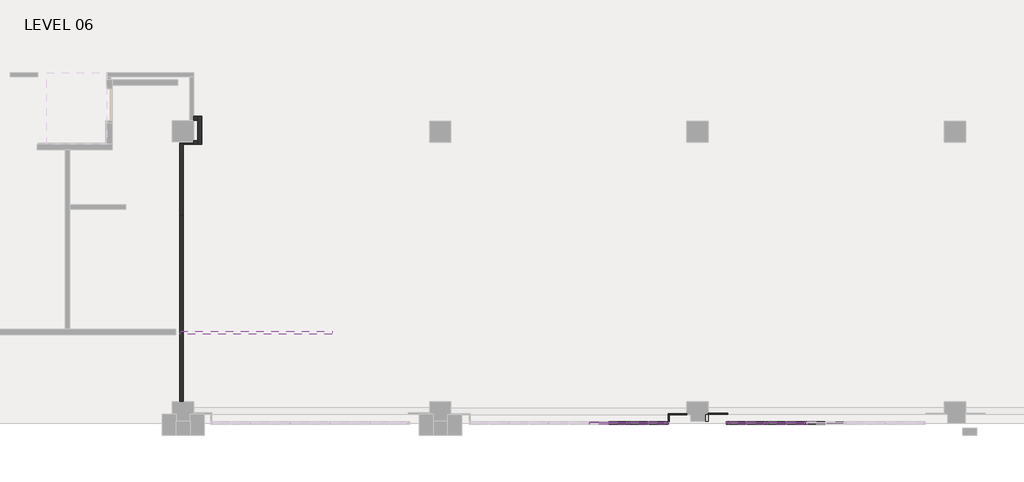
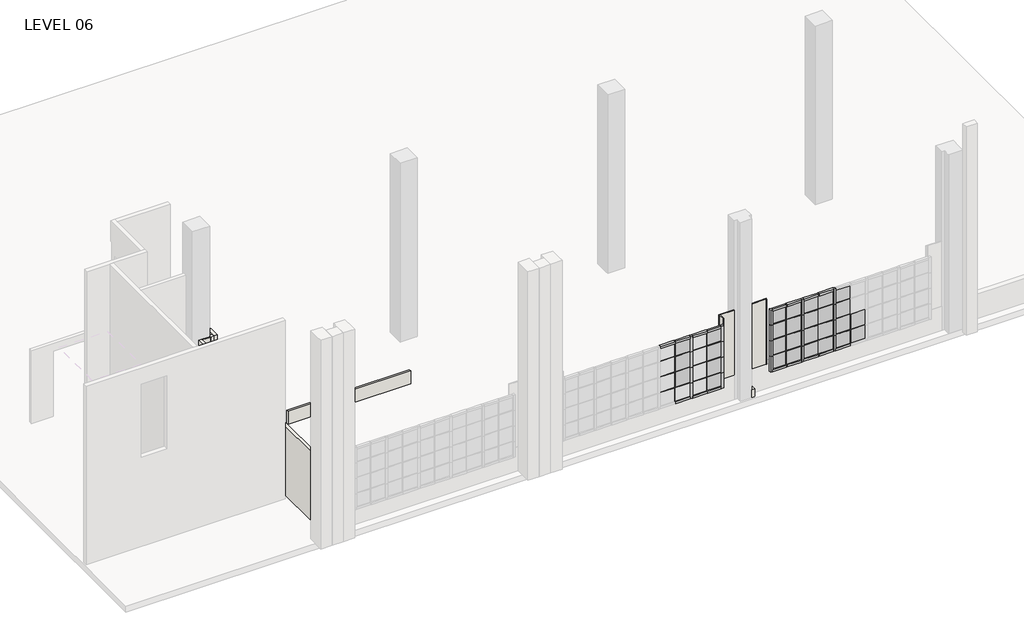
# One storey, part 5 of 16: 76 members, 29 plates, 12 walls.
"""IFC4 building model written with IfcOpenShell, lengths in millimetres."""

from ifc_helpers import new_model, si_unit, frame, origin, place, context, project, spatial, polyline, outline, extrude, faceted_brep, transform, mapped, element, save
from components import member_78bb2ef1, member_cb03ba1c, member_aa53491b, member_c1b5942e, member_9d26962d, member_378e0c06, member_17eb62f4, system_panel_glazed_79ade883, system_panel_glazed_12cc9f41, system_panel_glazed_730530c4, system_panel_glazed_b8d6571b

model = new_model("IFC4")

# Units and contexts
model_context = context("Model", 3, world=origin())
ifc_project = project(units=[si_unit("LENGTHUNIT", "METRE", prefix="MILLI")], contexts=[model_context])

# Site, building, storey
site = spatial("IfcSite", under=ifc_project)
building = spatial("IfcBuilding", under=site)
storey = spatial("IfcBuildingStorey", under=building, Name="LEVEL 06", Elevation=17449.8)

# Members
placement = place(None, origin())
member_shape = member_78bb2ef1(model_context)
element("IfcMember", 1, ObjectType="Rectangular Mullion : 1\" x 1\" - Butt Joint", at=placement, inside=storey, context=model_context, shape_type="MappedRepresentation", body=[
    mapped(member_shape, transform((-17963.4385758, -25119.8112062, 19989.8), x_axis=(1.0, 0.0, 0.0), y_axis=(0.0, -1.0, 0.0), z_axis=(0.0, 0.0, -1.0))),
])
element("IfcMember", 2, ObjectType="Rectangular Mullion : 1\" x 1\" - Butt Joint", at=placement, inside=storey, context=model_context, shape_type="MappedRepresentation", body=[
    mapped(member_shape, transform((-16825.5185758, -25119.8112062, 19989.8), x_axis=(1.0, 0.0, 0.0), y_axis=(0.0, -1.0, 0.0), z_axis=(0.0, 0.0, -1.0))),
])
element("IfcMember", 3, ObjectType="Rectangular Mullion : 1\" x 1\" - Butt Joint", at=placement, inside=storey, context=model_context, shape_type="MappedRepresentation", body=[
    mapped(member_shape, transform((-14017.8617677, -25119.8112062, 19989.8), x_axis=(1.0, 0.0, 0.0), y_axis=(0.0, -1.0, 0.0), z_axis=(0.0, 0.0, -1.0))),
])
element("IfcMember", 4, ObjectType="Rectangular Mullion : 1\" x 1\" - Butt Joint", at=placement, inside=storey, context=model_context, shape_type="MappedRepresentation", body=[
    mapped(member_shape, transform((-12879.9417677, -25119.8112062, 19989.8), x_axis=(1.0, 0.0, 0.0), y_axis=(0.0, -1.0, 0.0), z_axis=(0.0, 0.0, -1.0))),
])
member_2_shape = member_cb03ba1c(model_context)
element("IfcMember", 5, ObjectType="Rectangular Mullion : 1\" x 1\" - Butt Joint", at=placement, inside=storey, context=model_context, shape_type="MappedRepresentation", body=[
    mapped(member_2_shape, transform((-17432.5785758, -25119.8112062, 19989.8), x_axis=(0.0, 0.0, 1.0), y_axis=(0.0, -1.0, 0.0), z_axis=(1.0, 0.0, 0.0))),
])
element("IfcMember", 6, ObjectType="Rectangular Mullion : 1\" x 1\" - Butt Joint", at=placement, inside=storey, context=model_context, shape_type="MappedRepresentation", body=[
    mapped(member_2_shape, transform((-16838.2185758, -25119.8112062, 19989.8), x_axis=(0.0, 0.0, 1.0), y_axis=(0.0, -1.0, 0.0), z_axis=(1.0, 0.0, 0.0))),
])
element("IfcMember", 7, ObjectType="Rectangular Mullion : 1\" x 1\" - Butt Joint", at=placement, inside=storey, context=model_context, shape_type="MappedRepresentation", body=[
    mapped(member_2_shape, transform((-17976.1385758, -25119.8112062, 19989.8), x_axis=(0.0, 0.0, 1.0), y_axis=(0.0, -1.0, 0.0), z_axis=(1.0, 0.0, 0.0))),
])
element("IfcMember", 8, ObjectType="Rectangular Mullion : 1\" x 1\" - Butt Joint", at=placement, inside=storey, context=model_context, shape_type="MappedRepresentation", body=[
    mapped(member_2_shape, transform((-17432.5785758, -25119.8112062, 19405.6), x_axis=(0.0, 0.0, 1.0), y_axis=(0.0, -1.0, 0.0), z_axis=(1.0, 0.0, 0.0))),
])
element("IfcMember", 9, ObjectType="Rectangular Mullion : 1\" x 1\" - Butt Joint", at=placement, inside=storey, context=model_context, shape_type="MappedRepresentation", body=[
    mapped(member_2_shape, transform((-16838.2185758, -25119.8112062, 19405.6), x_axis=(0.0, 0.0, 1.0), y_axis=(0.0, -1.0, 0.0), z_axis=(1.0, 0.0, 0.0))),
])
element("IfcMember", 10, ObjectType="Rectangular Mullion : 1\" x 1\" - Butt Joint", at=placement, inside=storey, context=model_context, shape_type="MappedRepresentation", body=[
    mapped(member_2_shape, transform((-17976.1385758, -25119.8112062, 19405.6), x_axis=(0.0, 0.0, 1.0), y_axis=(0.0, -1.0, 0.0), z_axis=(1.0, 0.0, 0.0))),
])
element("IfcMember", 11, ObjectType="Rectangular Mullion : 1\" x 1\" - Butt Joint", at=placement, inside=storey, context=model_context, shape_type="MappedRepresentation", body=[
    mapped(member_2_shape, transform((-17432.5785758, -25119.8112062, 18821.4), x_axis=(0.0, 0.0, 1.0), y_axis=(0.0, -1.0, 0.0), z_axis=(1.0, 0.0, 0.0))),
])
element("IfcMember", 12, ObjectType="Rectangular Mullion : 1\" x 1\" - Butt Joint", at=placement, inside=storey, context=model_context, shape_type="MappedRepresentation", body=[
    mapped(member_2_shape, transform((-16838.2185758, -25119.8112062, 18821.4), x_axis=(0.0, 0.0, 1.0), y_axis=(0.0, -1.0, 0.0), z_axis=(1.0, 0.0, 0.0))),
])
element("IfcMember", 13, ObjectType="Rectangular Mullion : 1\" x 1\" - Butt Joint", at=placement, inside=storey, context=model_context, shape_type="MappedRepresentation", body=[
    mapped(member_2_shape, transform((-17976.1385758, -25119.8112062, 18821.4), x_axis=(0.0, 0.0, 1.0), y_axis=(0.0, -1.0, 0.0), z_axis=(1.0, 0.0, 0.0))),
])
element("IfcMember", 14, ObjectType="Rectangular Mullion : 1\" x 1\" - Butt Joint", at=placement, inside=storey, context=model_context, shape_type="MappedRepresentation", body=[
    mapped(member_2_shape, transform((-12349.0817677, -25119.8112062, 19989.8), x_axis=(0.0, 0.0, 1.0), y_axis=(0.0, -1.0, 0.0), z_axis=(1.0, 0.0, 0.0))),
])
element("IfcMember", 15, ObjectType="Rectangular Mullion : 1\" x 1\" - Butt Joint", at=placement, inside=storey, context=model_context, shape_type="MappedRepresentation", body=[
    mapped(member_2_shape, transform((-13487.0017677, -25119.8112062, 19989.8), x_axis=(0.0, 0.0, 1.0), y_axis=(0.0, -1.0, 0.0), z_axis=(1.0, 0.0, 0.0))),
])
element("IfcMember", 16, ObjectType="Rectangular Mullion : 1\" x 1\" - Butt Joint", at=placement, inside=storey, context=model_context, shape_type="MappedRepresentation", body=[
    mapped(member_2_shape, transform((-12892.6417677, -25119.8112062, 19989.8), x_axis=(0.0, 0.0, 1.0), y_axis=(0.0, -1.0, 0.0), z_axis=(1.0, 0.0, 0.0))),
])
element("IfcMember", 17, ObjectType="Rectangular Mullion : 1\" x 1\" - Butt Joint", at=placement, inside=storey, context=model_context, shape_type="MappedRepresentation", body=[
    mapped(member_2_shape, transform((-12349.0817677, -25119.8112062, 19405.6), x_axis=(0.0, 0.0, 1.0), y_axis=(0.0, -1.0, 0.0), z_axis=(1.0, 0.0, 0.0))),
])
element("IfcMember", 18, ObjectType="Rectangular Mullion : 1\" x 1\" - Butt Joint", at=placement, inside=storey, context=model_context, shape_type="MappedRepresentation", body=[
    mapped(member_2_shape, transform((-13487.0017677, -25119.8112062, 19405.6), x_axis=(0.0, 0.0, 1.0), y_axis=(0.0, -1.0, 0.0), z_axis=(1.0, 0.0, 0.0))),
])
element("IfcMember", 19, ObjectType="Rectangular Mullion : 1\" x 1\" - Butt Joint", at=placement, inside=storey, context=model_context, shape_type="MappedRepresentation", body=[
    mapped(member_2_shape, transform((-12892.6417677, -25119.8112062, 19405.6), x_axis=(0.0, 0.0, 1.0), y_axis=(0.0, -1.0, 0.0), z_axis=(1.0, 0.0, 0.0))),
])
element("IfcMember", 20, ObjectType="Rectangular Mullion : 1\" x 1\" - Butt Joint", at=placement, inside=storey, context=model_context, shape_type="MappedRepresentation", body=[
    mapped(member_2_shape, transform((-12349.0817677, -25119.8112062, 18821.4), x_axis=(0.0, 0.0, 1.0), y_axis=(0.0, -1.0, 0.0), z_axis=(1.0, 0.0, 0.0))),
])
element("IfcMember", 21, ObjectType="Rectangular Mullion : 1\" x 1\" - Butt Joint", at=placement, inside=storey, context=model_context, shape_type="MappedRepresentation", body=[
    mapped(member_2_shape, transform((-13487.0017677, -25119.8112062, 18821.4), x_axis=(0.0, 0.0, 1.0), y_axis=(0.0, -1.0, 0.0), z_axis=(1.0, 0.0, 0.0))),
])
element("IfcMember", 22, ObjectType="Rectangular Mullion : 1\" x 1\" - Butt Joint", at=placement, inside=storey, context=model_context, shape_type="MappedRepresentation", body=[
    mapped(member_2_shape, transform((-12892.6417677, -25119.8112062, 18821.4), x_axis=(0.0, 0.0, 1.0), y_axis=(0.0, -1.0, 0.0), z_axis=(1.0, 0.0, 0.0))),
])
member_3_shape = member_aa53491b(model_context)
element("IfcMember", 23, ObjectType="Rectangular Mullion : 1\" x 1\" - Butt Joint", at=placement, inside=storey, context=model_context, shape_type="MappedRepresentation", body=[
    mapped(member_3_shape, transform((-16332.7585758, -25119.8112062, 19989.8), x_axis=(0.0, 0.0, 1.0), y_axis=(0.0, -1.0, 0.0), z_axis=(1.0, 0.0, 0.0))),
])
element("IfcMember", 24, ObjectType="Rectangular Mullion : 1\" x 1\" - Butt Joint", at=placement, inside=storey, context=model_context, shape_type="MappedRepresentation", body=[
    mapped(member_3_shape, transform((-16332.7585758, -25119.8112062, 19405.6), x_axis=(0.0, 0.0, 1.0), y_axis=(0.0, -1.0, 0.0), z_axis=(1.0, 0.0, 0.0))),
])
element("IfcMember", 25, ObjectType="Rectangular Mullion : 1\" x 1\" - Butt Joint", at=placement, inside=storey, context=model_context, shape_type="MappedRepresentation", body=[
    mapped(member_3_shape, transform((-16332.7585758, -25119.8112062, 18821.4), x_axis=(0.0, 0.0, 1.0), y_axis=(0.0, -1.0, 0.0), z_axis=(1.0, 0.0, 0.0))),
])
element("IfcMember", 26, ObjectType="Rectangular Mullion : 1\" x 1\" - Butt Joint", at=placement, inside=storey, context=model_context, shape_type="MappedRepresentation", body=[
    mapped(member_3_shape, transform((-14030.5617677, -25119.8112062, 19989.8), x_axis=(0.0, 0.0, 1.0), y_axis=(0.0, -1.0, 0.0), z_axis=(1.0, 0.0, 0.0))),
])
element("IfcMember", 27, ObjectType="Rectangular Mullion : 1\" x 1\" - Butt Joint", at=placement, inside=storey, context=model_context, shape_type="MappedRepresentation", body=[
    mapped(member_3_shape, transform((-14030.5617677, -25119.8112062, 19405.6), x_axis=(0.0, 0.0, 1.0), y_axis=(0.0, -1.0, 0.0), z_axis=(1.0, 0.0, 0.0))),
])
element("IfcMember", 28, ObjectType="Rectangular Mullion : 1\" x 1\" - Butt Joint", at=placement, inside=storey, context=model_context, shape_type="MappedRepresentation", body=[
    mapped(member_3_shape, transform((-14030.5617677, -25119.8112062, 18821.4), x_axis=(0.0, 0.0, 1.0), y_axis=(0.0, -1.0, 0.0), z_axis=(1.0, 0.0, 0.0))),
])
element("IfcMember", 29, ObjectType="Rectangular Mullion : 1\" x 1\" - Butt Joint", at=placement, inside=storey, context=model_context, shape_type="MappedRepresentation", body=[
    mapped(member_shape, transform((-17963.4385758, -25119.8112062, 19405.6), x_axis=(1.0, 0.0, 0.0), y_axis=(0.0, -1.0, 0.0), z_axis=(0.0, 0.0, -1.0))),
])
element("IfcMember", 30, ObjectType="Rectangular Mullion : 1\" x 1\" - Butt Joint", at=placement, inside=storey, context=model_context, shape_type="MappedRepresentation", body=[
    mapped(member_shape, transform((-17963.4385758, -25119.8112062, 18821.4), x_axis=(1.0, 0.0, 0.0), y_axis=(0.0, -1.0, 0.0), z_axis=(0.0, 0.0, -1.0))),
])
element("IfcMember", 31, ObjectType="Rectangular Mullion : 1\" x 1\" - Butt Joint", at=placement, inside=storey, context=model_context, shape_type="MappedRepresentation", body=[
    mapped(member_shape, transform((-16825.5185758, -25119.8112062, 19405.6), x_axis=(1.0, 0.0, 0.0), y_axis=(0.0, -1.0, 0.0), z_axis=(0.0, 0.0, -1.0))),
])
element("IfcMember", 32, ObjectType="Rectangular Mullion : 1\" x 1\" - Butt Joint", at=placement, inside=storey, context=model_context, shape_type="MappedRepresentation", body=[
    mapped(member_shape, transform((-16825.5185758, -25119.8112062, 18821.4), x_axis=(1.0, 0.0, 0.0), y_axis=(0.0, -1.0, 0.0), z_axis=(0.0, 0.0, -1.0))),
])
element("IfcMember", 33, ObjectType="Rectangular Mullion : 1\" x 1\" - Butt Joint", at=placement, inside=storey, context=model_context, shape_type="MappedRepresentation", body=[
    mapped(member_shape, transform((-14017.8617677, -25119.8112062, 19405.6), x_axis=(1.0, 0.0, 0.0), y_axis=(0.0, -1.0, 0.0), z_axis=(0.0, 0.0, -1.0))),
])
element("IfcMember", 34, ObjectType="Rectangular Mullion : 1\" x 1\" - Butt Joint", at=placement, inside=storey, context=model_context, shape_type="MappedRepresentation", body=[
    mapped(member_shape, transform((-14017.8617677, -25119.8112062, 18821.4), x_axis=(1.0, 0.0, 0.0), y_axis=(0.0, -1.0, 0.0), z_axis=(0.0, 0.0, -1.0))),
])
element("IfcMember", 35, ObjectType="Rectangular Mullion : 1\" x 1\" - Butt Joint", at=placement, inside=storey, context=model_context, shape_type="MappedRepresentation", body=[
    mapped(member_shape, transform((-12879.9417677, -25119.8112062, 19405.6), x_axis=(1.0, 0.0, 0.0), y_axis=(0.0, -1.0, 0.0), z_axis=(0.0, 0.0, -1.0))),
])
element("IfcMember", 36, ObjectType="Rectangular Mullion : 1\" x 1\" - Butt Joint", at=placement, inside=storey, context=model_context, shape_type="MappedRepresentation", body=[
    mapped(member_shape, transform((-12879.9417677, -25119.8112062, 18821.4), x_axis=(1.0, 0.0, 0.0), y_axis=(0.0, -1.0, 0.0), z_axis=(0.0, 0.0, -1.0))),
])
element("IfcMember", 37, ObjectType="Rectangular Mullion : 1\" x 1\" - Butt Joint", at=placement, inside=storey, context=model_context, shape_type="MappedRepresentation", body=[
    mapped(member_shape, transform((-17963.4385758, -25119.8112062, 18237.2), x_axis=(1.0, 0.0, 0.0), y_axis=(0.0, -1.0, 0.0), z_axis=(0.0, 0.0, -1.0))),
])
element("IfcMember", 38, ObjectType="Rectangular Mullion : 1\" x 1\" - Butt Joint", at=placement, inside=storey, context=model_context, shape_type="MappedRepresentation", body=[
    mapped(member_shape, transform((-16825.5185758, -25119.8112062, 18237.2), x_axis=(1.0, 0.0, 0.0), y_axis=(0.0, -1.0, 0.0), z_axis=(0.0, 0.0, -1.0))),
])
element("IfcMember", 39, ObjectType="Rectangular Mullion : 1\" x 1\" - Butt Joint", at=placement, inside=storey, context=model_context, shape_type="MappedRepresentation", body=[
    mapped(member_shape, transform((-14017.8617677, -25119.8112062, 18237.2), x_axis=(1.0, 0.0, 0.0), y_axis=(0.0, -1.0, 0.0), z_axis=(0.0, 0.0, -1.0))),
])
element("IfcMember", 40, ObjectType="Rectangular Mullion : 1\" x 1\" - Butt Joint", at=placement, inside=storey, context=model_context, shape_type="MappedRepresentation", body=[
    mapped(member_shape, transform((-12879.9417677, -25119.8112062, 18237.2), x_axis=(1.0, 0.0, 0.0), y_axis=(0.0, -1.0, 0.0), z_axis=(0.0, 0.0, -1.0))),
])
member_4_shape = member_c1b5942e(model_context)
element("IfcMember", 41, ObjectType="Rectangular Mullion : 3\" x 3\" Window Jamb", at=placement, inside=storey, context=model_context, shape_type="MappedRepresentation", body=[
    mapped(member_4_shape, transform((-17950.7385758, -25119.8112062, 18237.2), x_axis=(0.0, 0.0, -1.0), y_axis=(0.0, -1.0, 0.0), z_axis=(-1.0, 0.0, 0.0))),
])
element("IfcMember", 42, ObjectType="Rectangular Mullion : 3\" x 3\" Window Jamb", at=placement, inside=storey, context=model_context, shape_type="MappedRepresentation", body=[
    mapped(member_4_shape, transform((-17356.3785758, -25119.8112062, 18237.2), x_axis=(0.0, 0.0, -1.0), y_axis=(0.0, -1.0, 0.0), z_axis=(-1.0, 0.0, 0.0))),
])
element("IfcMember", 43, ObjectType="Rectangular Mullion : 3\" x 3\" Window Jamb", at=placement, inside=storey, context=model_context, shape_type="MappedRepresentation", body=[
    mapped(member_4_shape, transform((-12867.2417677, -25119.8112062, 18237.2), x_axis=(0.0, 0.0, -1.0), y_axis=(0.0, -1.0, 0.0), z_axis=(-1.0, 0.0, 0.0))),
])
element("IfcMember", 44, ObjectType="Rectangular Mullion : 3\" x 3\" Window Jamb", at=placement, inside=storey, context=model_context, shape_type="MappedRepresentation", body=[
    mapped(member_4_shape, transform((-14005.1617677, -25119.8112062, 18237.2), x_axis=(0.0, 0.0, -1.0), y_axis=(0.0, -1.0, 0.0), z_axis=(-1.0, 0.0, 0.0))),
])
element("IfcMember", 45, ObjectType="Rectangular Mullion : 3\" x 3\" Window Jamb", at=placement, inside=storey, context=model_context, shape_type="MappedRepresentation", body=[
    mapped(member_4_shape, transform((-12272.8817677, -25119.8112062, 18237.2), x_axis=(0.0, 0.0, -1.0), y_axis=(0.0, -1.0, 0.0), z_axis=(-1.0, 0.0, 0.0))),
])
element("IfcMember", 46, ObjectType="Rectangular Mullion : 3\" x 3\" Window Jamb", at=placement, inside=storey, context=model_context, shape_type="MappedRepresentation", body=[
    mapped(member_4_shape, transform((-13410.8017677, -25119.8112062, 18237.2), x_axis=(0.0, 0.0, -1.0), y_axis=(0.0, -1.0, 0.0), z_axis=(-1.0, 0.0, 0.0))),
])
member_5_shape = member_9d26962d(model_context)
element("IfcMember", 47, ObjectType="Rectangular Mullion : 3\" x 3\" Window Jamb", at=placement, inside=storey, context=model_context, shape_type="MappedRepresentation", body=[
    mapped(member_5_shape, transform((-16812.8185758, -25119.8112062, 18237.2), x_axis=(0.0, 0.0, -1.0), y_axis=(0.0, -1.0, 0.0), z_axis=(-1.0, 0.0, 0.0))),
])
element("IfcMember", 48, ObjectType="Rectangular Mullion : 3\" x 3\" Window Jamb", at=placement, inside=storey, context=model_context, shape_type="MappedRepresentation", body=[
    mapped(member_5_shape, transform((-14510.6217677, -25119.8112062, 18237.2), x_axis=(0.0, 0.0, -1.0), y_axis=(0.0, -1.0, 0.0), z_axis=(-1.0, 0.0, 0.0))),
])
element("IfcMember", 49, ObjectType="Rectangular Mullion : 3\" x 3\" Window Jamb", at=placement, inside=storey, context=model_context, shape_type="MappedRepresentation", body=[
    mapped(member_5_shape, transform((-16332.7585758, -25119.8112062, 20574.0), x_axis=(0.0, 0.0, 1.0), y_axis=(0.0, -1.0, 0.0), z_axis=(1.0, 0.0, 0.0))),
])
element("IfcMember", 50, ObjectType="Rectangular Mullion : 3\" x 3\" Window Jamb", at=placement, inside=storey, context=model_context, shape_type="MappedRepresentation", body=[
    mapped(member_5_shape, transform((-14030.5617677, -25119.8112062, 20574.0), x_axis=(0.0, 0.0, 1.0), y_axis=(0.0, -1.0, 0.0), z_axis=(1.0, 0.0, 0.0))),
])
element("IfcMember", 51, ObjectType="Rectangular Mullion : 3\" x 3\" Window Jamb", at=placement, inside=storey, context=model_context, shape_type="MappedRepresentation", body=[
    mapped(member_4_shape, transform((-16838.2185758, -25119.8112062, 20574.0), x_axis=(0.0, 0.0, 1.0), y_axis=(0.0, -1.0, 0.0), z_axis=(1.0, 0.0, 0.0))),
])
element("IfcMember", 52, ObjectType="Rectangular Mullion : 3\" x 3\" Window Jamb", at=placement, inside=storey, context=model_context, shape_type="MappedRepresentation", body=[
    mapped(member_4_shape, transform((-17976.1385758, -25119.8112062, 20574.0), x_axis=(0.0, 0.0, 1.0), y_axis=(0.0, -1.0, 0.0), z_axis=(1.0, 0.0, 0.0))),
])
element("IfcMember", 53, ObjectType="Rectangular Mullion : 3\" x 3\" Window Jamb", at=placement, inside=storey, context=model_context, shape_type="MappedRepresentation", body=[
    mapped(member_4_shape, transform((-17432.5785758, -25119.8112062, 20574.0), x_axis=(0.0, 0.0, 1.0), y_axis=(0.0, -1.0, 0.0), z_axis=(1.0, 0.0, 0.0))),
])
element("IfcMember", 54, ObjectType="Rectangular Mullion : 3\" x 3\" Window Jamb", at=placement, inside=storey, context=model_context, shape_type="MappedRepresentation", body=[
    mapped(member_4_shape, transform((-12892.6417677, -25119.8112062, 20574.0), x_axis=(0.0, 0.0, 1.0), y_axis=(0.0, -1.0, 0.0), z_axis=(1.0, 0.0, 0.0))),
])
element("IfcMember", 55, ObjectType="Rectangular Mullion : 3\" x 3\" Window Jamb", at=placement, inside=storey, context=model_context, shape_type="MappedRepresentation", body=[
    mapped(member_4_shape, transform((-12349.0817677, -25119.8112062, 20574.0), x_axis=(0.0, 0.0, 1.0), y_axis=(0.0, -1.0, 0.0), z_axis=(1.0, 0.0, 0.0))),
])
element("IfcMember", 56, ObjectType="Rectangular Mullion : 3\" x 3\" Window Jamb", at=placement, inside=storey, context=model_context, shape_type="MappedRepresentation", body=[
    mapped(member_4_shape, transform((-13487.0017677, -25119.8112062, 20574.0), x_axis=(0.0, 0.0, 1.0), y_axis=(0.0, -1.0, 0.0), z_axis=(1.0, 0.0, 0.0))),
])
member_6_shape = member_378e0c06(model_context)
element("IfcMember", 57, ObjectType="Rectangular Mullion : 3\" x 3\" Window Jamb", at=placement, inside=storey, context=model_context, shape_type="MappedRepresentation", body=[
    mapped(member_6_shape, transform((-17394.4785758, -25119.8112062, 19989.8), x_axis=(1.0, 0.0, 0.0), y_axis=(0.0, -1.0, 0.0), z_axis=(0.0, 0.0, -1.0))),
])
element("IfcMember", 58, ObjectType="Rectangular Mullion : 3\" x 3\" Window Jamb", at=placement, inside=storey, context=model_context, shape_type="MappedRepresentation", body=[
    mapped(member_6_shape, transform((-13448.9017677, -25119.8112062, 19989.8), x_axis=(1.0, 0.0, 0.0), y_axis=(0.0, -1.0, 0.0), z_axis=(0.0, 0.0, -1.0))),
])
element("IfcMember", 59, ObjectType="Rectangular Mullion : 3\" x 3\" Window Jamb", at=placement, inside=storey, context=model_context, shape_type="MappedRepresentation", body=[
    mapped(member_6_shape, transform((-12310.9817677, -25119.8112062, 19989.8), x_axis=(1.0, 0.0, 0.0), y_axis=(0.0, -1.0, 0.0), z_axis=(0.0, 0.0, -1.0))),
])
member_7_shape = member_17eb62f4(model_context)
element("IfcMember", 60, ObjectType="Rectangular Mullion : 3\" x 3\" Window Jamb", at=placement, inside=storey, context=model_context, shape_type="MappedRepresentation", body=[
    mapped(member_7_shape, transform((-16256.5585758, -25119.8112062, 19989.8), x_axis=(1.0, 0.0, 0.0), y_axis=(0.0, -1.0, 0.0), z_axis=(0.0, 0.0, -1.0))),
])
element("IfcMember", 61, ObjectType="Rectangular Mullion : 3\" x 3\" Window Jamb", at=placement, inside=storey, context=model_context, shape_type="MappedRepresentation", body=[
    mapped(member_7_shape, transform((-14586.8217677, -25119.8112062, 20574.0), x_axis=(-1.0, 0.0, 0.0), y_axis=(0.0, -1.0, 0.0), z_axis=(0.0, 0.0, 1.0))),
])
element("IfcMember", 62, ObjectType="Rectangular Mullion : 3\" x 3\" Window Jamb", at=placement, inside=storey, context=model_context, shape_type="MappedRepresentation", body=[
    mapped(member_6_shape, transform((-17394.4785758, -25119.8112062, 19405.6), x_axis=(1.0, 0.0, 0.0), y_axis=(0.0, -1.0, 0.0), z_axis=(0.0, 0.0, -1.0))),
])
element("IfcMember", 63, ObjectType="Rectangular Mullion : 3\" x 3\" Window Jamb", at=placement, inside=storey, context=model_context, shape_type="MappedRepresentation", body=[
    mapped(member_6_shape, transform((-17394.4785758, -25119.8112062, 18821.4), x_axis=(1.0, 0.0, 0.0), y_axis=(0.0, -1.0, 0.0), z_axis=(0.0, 0.0, -1.0))),
])
element("IfcMember", 64, ObjectType="Rectangular Mullion : 3\" x 3\" Window Jamb", at=placement, inside=storey, context=model_context, shape_type="MappedRepresentation", body=[
    mapped(member_6_shape, transform((-13448.9017677, -25119.8112062, 19405.6), x_axis=(1.0, 0.0, 0.0), y_axis=(0.0, -1.0, 0.0), z_axis=(0.0, 0.0, -1.0))),
])
element("IfcMember", 65, ObjectType="Rectangular Mullion : 3\" x 3\" Window Jamb", at=placement, inside=storey, context=model_context, shape_type="MappedRepresentation", body=[
    mapped(member_6_shape, transform((-13448.9017677, -25119.8112062, 18821.4), x_axis=(1.0, 0.0, 0.0), y_axis=(0.0, -1.0, 0.0), z_axis=(0.0, 0.0, -1.0))),
])
element("IfcMember", 66, ObjectType="Rectangular Mullion : 3\" x 3\" Window Jamb", at=placement, inside=storey, context=model_context, shape_type="MappedRepresentation", body=[
    mapped(member_6_shape, transform((-12310.9817677, -25119.8112062, 19405.6), x_axis=(1.0, 0.0, 0.0), y_axis=(0.0, -1.0, 0.0), z_axis=(0.0, 0.0, -1.0))),
])
element("IfcMember", 67, ObjectType="Rectangular Mullion : 3\" x 3\" Window Jamb", at=placement, inside=storey, context=model_context, shape_type="MappedRepresentation", body=[
    mapped(member_6_shape, transform((-12310.9817677, -25119.8112062, 18821.4), x_axis=(1.0, 0.0, 0.0), y_axis=(0.0, -1.0, 0.0), z_axis=(0.0, 0.0, -1.0))),
])
element("IfcMember", 68, ObjectType="Rectangular Mullion : 3\" x 3\" Window Jamb", at=placement, inside=storey, context=model_context, shape_type="MappedRepresentation", body=[
    mapped(member_7_shape, transform((-16256.5585758, -25119.8112062, 19405.6), x_axis=(1.0, 0.0, 0.0), y_axis=(0.0, -1.0, 0.0), z_axis=(0.0, 0.0, -1.0))),
])
element("IfcMember", 69, ObjectType="Rectangular Mullion : 3\" x 3\" Window Jamb", at=placement, inside=storey, context=model_context, shape_type="MappedRepresentation", body=[
    mapped(member_7_shape, transform((-16256.5585758, -25119.8112062, 18821.4), x_axis=(1.0, 0.0, 0.0), y_axis=(0.0, -1.0, 0.0), z_axis=(0.0, 0.0, -1.0))),
])
element("IfcMember", 70, ObjectType="Rectangular Mullion : 3\" x 3\" Window Jamb", at=placement, inside=storey, context=model_context, shape_type="MappedRepresentation", body=[
    mapped(member_7_shape, transform((-14586.8217677, -25119.8112062, 19989.8), x_axis=(-1.0, 0.0, 0.0), y_axis=(0.0, -1.0, 0.0), z_axis=(0.0, 0.0, 1.0))),
])
element("IfcMember", 71, ObjectType="Rectangular Mullion : 3\" x 3\" Window Jamb", at=placement, inside=storey, context=model_context, shape_type="MappedRepresentation", body=[
    mapped(member_7_shape, transform((-14586.8217677, -25119.8112062, 19405.6), x_axis=(-1.0, 0.0, 0.0), y_axis=(0.0, -1.0, 0.0), z_axis=(0.0, 0.0, 1.0))),
])
element("IfcMember", 72, ObjectType="Rectangular Mullion : 3\" x 3\" Window Jamb", at=placement, inside=storey, context=model_context, shape_type="MappedRepresentation", body=[
    mapped(member_6_shape, transform((-17394.4785758, -25119.8112062, 18237.2), x_axis=(1.0, 0.0, 0.0), y_axis=(0.0, -1.0, 0.0), z_axis=(0.0, 0.0, -1.0))),
])
element("IfcMember", 73, ObjectType="Rectangular Mullion : 3\" x 3\" Window Jamb", at=placement, inside=storey, context=model_context, shape_type="MappedRepresentation", body=[
    mapped(member_6_shape, transform((-13448.9017677, -25119.8112062, 18237.2), x_axis=(1.0, 0.0, 0.0), y_axis=(0.0, -1.0, 0.0), z_axis=(0.0, 0.0, -1.0))),
])
element("IfcMember", 74, ObjectType="Rectangular Mullion : 3\" x 3\" Window Jamb", at=placement, inside=storey, context=model_context, shape_type="MappedRepresentation", body=[
    mapped(member_6_shape, transform((-12310.9817677, -25119.8112062, 18237.2), x_axis=(1.0, 0.0, 0.0), y_axis=(0.0, -1.0, 0.0), z_axis=(0.0, 0.0, -1.0))),
])
element("IfcMember", 75, ObjectType="Rectangular Mullion : 3\" x 3\" Window Jamb", at=placement, inside=storey, context=model_context, shape_type="MappedRepresentation", body=[
    mapped(member_7_shape, transform((-16256.5585758, -25119.8112062, 18237.2), x_axis=(1.0, 0.0, 0.0), y_axis=(0.0, -1.0, 0.0), z_axis=(0.0, 0.0, -1.0))),
])
element("IfcMember", 76, ObjectType="Rectangular Mullion : 3\" x 3\" Window Jamb", at=placement, inside=storey, context=model_context, shape_type="MappedRepresentation", body=[
    mapped(member_7_shape, transform((-14586.8217677, -25119.8112062, 18821.4), x_axis=(-1.0, 0.0, 0.0), y_axis=(0.0, -1.0, 0.0), z_axis=(0.0, 0.0, 1.0))),
])

# Plates
system_panel_glazed_shape = system_panel_glazed_79ade883(model_context)
element("IfcPlate", 77, ObjectType="System Panel : Glazed", at=placement, inside=storey, context=model_context, shape_type="MappedRepresentation", body=[
    mapped(system_panel_glazed_shape, transform((-16572.7885758, -25119.8112062, 18313.4), x_axis=(1.0, 0.0, 0.0), y_axis=(0.0, 1.0, 0.0), z_axis=(0.0, 0.0, 1.0))),
])
element("IfcPlate", 78, ObjectType="System Panel : Glazed", at=placement, inside=storey, context=model_context, shape_type="MappedRepresentation", body=[
    mapped(system_panel_glazed_shape, transform((-16572.7885758, -25119.8112062, 20002.5), x_axis=(1.0, 0.0, 0.0), y_axis=(0.0, 1.0, 0.0), z_axis=(0.0, 0.0, 1.0))),
])
element("IfcPlate", 79, ObjectType="System Panel : Glazed", at=placement, inside=storey, context=model_context, shape_type="MappedRepresentation", body=[
    mapped(system_panel_glazed_shape, transform((-14270.5917677, -25119.8112062, 18313.4), x_axis=(1.0, 0.0, 0.0), y_axis=(0.0, 1.0, 0.0), z_axis=(0.0, 0.0, 1.0))),
])
element("IfcPlate", 80, ObjectType="System Panel : Glazed", at=placement, inside=storey, context=model_context, shape_type="MappedRepresentation", body=[
    mapped(system_panel_glazed_shape, transform((-14270.5917677, -25119.8112062, 20002.5), x_axis=(1.0, 0.0, 0.0), y_axis=(0.0, 1.0, 0.0), z_axis=(0.0, 0.0, 1.0))),
])
system_panel_glazed_2_shape = system_panel_glazed_12cc9f41(model_context)
element("IfcPlate", 81, ObjectType="System Panel : Glazed", at=placement, inside=storey, context=model_context, shape_type="MappedRepresentation", body=[
    mapped(system_panel_glazed_2_shape, transform((-17691.6585758, -25119.8112062, 20002.5), x_axis=(1.0, 0.0, 0.0), y_axis=(0.0, 1.0, 0.0), z_axis=(0.0, 0.0, 1.0))),
])
element("IfcPlate", 82, ObjectType="System Panel : Glazed", at=placement, inside=storey, context=model_context, shape_type="MappedRepresentation", body=[
    mapped(system_panel_glazed_2_shape, transform((-13151.7217677, -25119.8112062, 18313.4), x_axis=(1.0, 0.0, 0.0), y_axis=(0.0, 1.0, 0.0), z_axis=(0.0, 0.0, 1.0))),
])
element("IfcPlate", 83, ObjectType="System Panel : Glazed", at=placement, inside=storey, context=model_context, shape_type="MappedRepresentation", body=[
    mapped(system_panel_glazed_2_shape, transform((-12013.8017677, -25119.8112062, 18313.4), x_axis=(1.0, 0.0, 0.0), y_axis=(0.0, 1.0, 0.0), z_axis=(0.0, 0.0, 1.0))),
])
element("IfcPlate", 84, ObjectType="System Panel : Glazed", at=placement, inside=storey, context=model_context, shape_type="MappedRepresentation", body=[
    mapped(system_panel_glazed_2_shape, transform((-13151.7217677, -25119.8112062, 20002.5), x_axis=(1.0, 0.0, 0.0), y_axis=(0.0, 1.0, 0.0), z_axis=(0.0, 0.0, 1.0))),
])
element("IfcPlate", 85, ObjectType="System Panel : Glazed", at=placement, inside=storey, context=model_context, shape_type="MappedRepresentation", body=[
    mapped(system_panel_glazed_2_shape, transform((-12013.8017677, -25119.8112062, 20002.5), x_axis=(1.0, 0.0, 0.0), y_axis=(0.0, 1.0, 0.0), z_axis=(0.0, 0.0, 1.0))),
])
element("IfcPlate", 86, ObjectType="System Panel : Glazed", at=placement, inside=storey, context=model_context, shape_type="MappedRepresentation", body=[
    mapped(system_panel_glazed_2_shape, transform((-13746.0817677, -25119.8112062, 18313.4), x_axis=(1.0, 0.0, 0.0), y_axis=(0.0, 1.0, 0.0), z_axis=(0.0, 0.0, 1.0))),
])
element("IfcPlate", 87, ObjectType="System Panel : Glazed", at=placement, inside=storey, context=model_context, shape_type="MappedRepresentation", body=[
    mapped(system_panel_glazed_2_shape, transform((-13746.0817677, -25119.8112062, 20002.5), x_axis=(1.0, 0.0, 0.0), y_axis=(0.0, 1.0, 0.0), z_axis=(0.0, 0.0, 1.0))),
])
element("IfcPlate", 88, ObjectType="System Panel : Glazed", at=placement, inside=storey, context=model_context, shape_type="MappedRepresentation", body=[
    mapped(system_panel_glazed_2_shape, transform((-12608.1617677, -25119.8112062, 18313.4), x_axis=(1.0, 0.0, 0.0), y_axis=(0.0, 1.0, 0.0), z_axis=(0.0, 0.0, 1.0))),
])
element("IfcPlate", 89, ObjectType="System Panel : Glazed", at=placement, inside=storey, context=model_context, shape_type="MappedRepresentation", body=[
    mapped(system_panel_glazed_2_shape, transform((-12608.1617677, -25119.8112062, 20002.5), x_axis=(1.0, 0.0, 0.0), y_axis=(0.0, 1.0, 0.0), z_axis=(0.0, 0.0, 1.0))),
])
element("IfcPlate", 90, ObjectType="System Panel : Glazed", at=placement, inside=storey, context=model_context, shape_type="MappedRepresentation", body=[
    mapped(system_panel_glazed_2_shape, transform((-11470.2417677, -25119.8112062, 18313.4), x_axis=(1.0, 0.0, 0.0), y_axis=(0.0, 1.0, 0.0), z_axis=(0.0, 0.0, 1.0))),
])
system_panel_glazed_3_shape = system_panel_glazed_730530c4(model_context)
element("IfcPlate", 91, ObjectType="System Panel : Glazed", at=placement, inside=storey, context=model_context, shape_type="MappedRepresentation", body=[
    mapped(system_panel_glazed_3_shape, transform((-16572.7885758, -25119.8112062, 18834.1), x_axis=(1.0, 0.0, 0.0), y_axis=(0.0, 1.0, 0.0), z_axis=(0.0, 0.0, 1.0))),
])
element("IfcPlate", 92, ObjectType="System Panel : Glazed", at=placement, inside=storey, context=model_context, shape_type="MappedRepresentation", body=[
    mapped(system_panel_glazed_3_shape, transform((-16572.7885758, -25119.8112062, 19418.3), x_axis=(1.0, 0.0, 0.0), y_axis=(0.0, 1.0, 0.0), z_axis=(0.0, 0.0, 1.0))),
])
element("IfcPlate", 93, ObjectType="System Panel : Glazed", at=placement, inside=storey, context=model_context, shape_type="MappedRepresentation", body=[
    mapped(system_panel_glazed_3_shape, transform((-14270.5917677, -25119.8112062, 18834.1), x_axis=(1.0, 0.0, 0.0), y_axis=(0.0, 1.0, 0.0), z_axis=(0.0, 0.0, 1.0))),
])
element("IfcPlate", 94, ObjectType="System Panel : Glazed", at=placement, inside=storey, context=model_context, shape_type="MappedRepresentation", body=[
    mapped(system_panel_glazed_3_shape, transform((-14270.5917677, -25119.8112062, 19418.3), x_axis=(1.0, 0.0, 0.0), y_axis=(0.0, 1.0, 0.0), z_axis=(0.0, 0.0, 1.0))),
])
system_panel_glazed_4_shape = system_panel_glazed_b8d6571b(model_context)
element("IfcPlate", 95, ObjectType="System Panel : Glazed", at=placement, inside=storey, context=model_context, shape_type="MappedRepresentation", body=[
    mapped(system_panel_glazed_4_shape, transform((-17691.6585758, -25119.8112062, 18834.1), x_axis=(1.0, 0.0, 0.0), y_axis=(0.0, 1.0, 0.0), z_axis=(0.0, 0.0, 1.0))),
])
element("IfcPlate", 96, ObjectType="System Panel : Glazed", at=placement, inside=storey, context=model_context, shape_type="MappedRepresentation", body=[
    mapped(system_panel_glazed_4_shape, transform((-17691.6585758, -25119.8112062, 19418.3), x_axis=(1.0, 0.0, 0.0), y_axis=(0.0, 1.0, 0.0), z_axis=(0.0, 0.0, 1.0))),
])
element("IfcPlate", 97, ObjectType="System Panel : Glazed", at=placement, inside=storey, context=model_context, shape_type="MappedRepresentation", body=[
    mapped(system_panel_glazed_4_shape, transform((-13151.7217677, -25119.8112062, 18834.1), x_axis=(1.0, 0.0, 0.0), y_axis=(0.0, 1.0, 0.0), z_axis=(0.0, 0.0, 1.0))),
])
element("IfcPlate", 98, ObjectType="System Panel : Glazed", at=placement, inside=storey, context=model_context, shape_type="MappedRepresentation", body=[
    mapped(system_panel_glazed_4_shape, transform((-12013.8017677, -25119.8112062, 18834.1), x_axis=(1.0, 0.0, 0.0), y_axis=(0.0, 1.0, 0.0), z_axis=(0.0, 0.0, 1.0))),
])
element("IfcPlate", 99, ObjectType="System Panel : Glazed", at=placement, inside=storey, context=model_context, shape_type="MappedRepresentation", body=[
    mapped(system_panel_glazed_4_shape, transform((-13151.7217677, -25119.8112062, 19418.3), x_axis=(1.0, 0.0, 0.0), y_axis=(0.0, 1.0, 0.0), z_axis=(0.0, 0.0, 1.0))),
])
element("IfcPlate", 100, ObjectType="System Panel : Glazed", at=placement, inside=storey, context=model_context, shape_type="MappedRepresentation", body=[
    mapped(system_panel_glazed_4_shape, transform((-12013.8017677, -25119.8112062, 19418.3), x_axis=(1.0, 0.0, 0.0), y_axis=(0.0, 1.0, 0.0), z_axis=(0.0, 0.0, 1.0))),
])
element("IfcPlate", 101, ObjectType="System Panel : Glazed", at=placement, inside=storey, context=model_context, shape_type="MappedRepresentation", body=[
    mapped(system_panel_glazed_4_shape, transform((-13746.0817677, -25119.8112062, 18834.1), x_axis=(1.0, 0.0, 0.0), y_axis=(0.0, 1.0, 0.0), z_axis=(0.0, 0.0, 1.0))),
])
element("IfcPlate", 102, ObjectType="System Panel : Glazed", at=placement, inside=storey, context=model_context, shape_type="MappedRepresentation", body=[
    mapped(system_panel_glazed_4_shape, transform((-13746.0817677, -25119.8112062, 19418.3), x_axis=(1.0, 0.0, 0.0), y_axis=(0.0, 1.0, 0.0), z_axis=(0.0, 0.0, 1.0))),
])
element("IfcPlate", 103, ObjectType="System Panel : Glazed", at=placement, inside=storey, context=model_context, shape_type="MappedRepresentation", body=[
    mapped(system_panel_glazed_4_shape, transform((-12608.1617677, -25119.8112062, 18834.1), x_axis=(1.0, 0.0, 0.0), y_axis=(0.0, 1.0, 0.0), z_axis=(0.0, 0.0, 1.0))),
])
element("IfcPlate", 104, ObjectType="System Panel : Glazed", at=placement, inside=storey, context=model_context, shape_type="MappedRepresentation", body=[
    mapped(system_panel_glazed_4_shape, transform((-12608.1617677, -25119.8112062, 19418.3), x_axis=(1.0, 0.0, 0.0), y_axis=(0.0, 1.0, 0.0), z_axis=(0.0, 0.0, 1.0))),
])
element("IfcPlate", 105, ObjectType="System Panel : Glazed", at=placement, inside=storey, context=model_context, shape_type="MappedRepresentation", body=[
    mapped(system_panel_glazed_4_shape, transform((-11470.2417677, -25119.8112062, 18834.1), x_axis=(1.0, 0.0, 0.0), y_axis=(0.0, 1.0, 0.0), z_axis=(0.0, 0.0, 1.0))),
])

# Walls
element("IfcWall", 106, ObjectType="Partition A2_", at=placement, inside=storey, context=model_context, shape_type="Brep", body=[
    faceted_brep([(-15203.0849596, -24525.0483115, 17449.8), (-15203.0849596, -25084.033955, 17449.8), (-15203.0849596, -25084.033955, 17754.6), (-15203.0849596, -24525.0483115, 17754.6), (-15107.8349596, -24525.0483115, 17449.8), (-15107.8349596, -24525.0483115, 17754.6), (-15107.8349596, -25084.033955, 17754.6), (-15107.8349596, -25084.033955, 17449.8), (-15107.8349596, -24886.7398215, 17449.8), (-15107.8349596, -24702.5898215, 17449.8)], [[[0, 1, 2, 3]], [[4, 5, 6, 7, 8, 9]], [[1, 0, 4, 9, 8, 7]], [[3, 2, 6, 5]], [[0, 3, 5, 4]], [[2, 1, 7, 6]]]),
])
element("IfcWall", 107, ObjectType="Partition D2_", at=placement, inside=storey, context=model_context, shape_type="SweptSolid", body=[
    extrude(outline(polyline([(-25869.0721217, -22590.8917517), (-30212.9097362, -22590.8917517), (-30212.9097362, -22511.5167517), (-25869.0721217, -22511.5167517), (-25869.0721217, -22590.8917517)])), frame((0.0, 0.0, 20193.0), z_axis=(0.0, 0.0, 1.0), x_axis=(1.0, 0.0, 0.0)), (0.0, 0.0, 1.0), 482.6),
])
element("IfcWall", 108, ObjectType="Partition D3A", at=placement, inside=storey, context=model_context, shape_type="Brep", body=[
    faceted_brep([(-30124.0082282, -19185.7042517, 17449.8), (-30124.0082282, -17163.2292517, 17449.8), (-30124.0082282, -17128.3042517, 17449.8), (-30124.0082282, -17128.3042517, 20040.6), (-30124.0082282, -17163.2292517, 20040.6), (-30124.0082282, -19185.7042517, 20040.6), (-30231.9582282, -19185.7042517, 17449.8), (-30231.9582282, -19185.7042517, 20040.6), (-30231.9582282, -17128.3042517, 20040.6), (-30231.9582282, -17128.3042517, 17449.8)], [[[0, 1, 2, 3, 4, 5]], [[6, 7, 8, 9]], [[2, 1, 0, 6, 9]], [[5, 4, 3, 8, 7]], [[0, 5, 7, 6]], [[3, 2, 9, 8]]]),
])
element("IfcWall", 109, ObjectType="Partition D3A", at=placement, inside=storey, context=model_context, shape_type="Brep", body=[
    faceted_brep([(-29710.8221217, -16366.5601345, 17449.8), (-29710.8221217, -16474.5101345, 17449.8), (-29710.8221217, -17055.2792517, 17449.8), (-29710.8221217, -17163.2292517, 17449.8), (-29710.8221217, -17163.2292517, 20040.6), (-29710.8221217, -17055.2792517, 20040.6), (-29710.8221217, -16474.5101345, 20040.6), (-29710.8221217, -16366.5601345, 20040.6), (-29602.8721217, -16366.5601345, 17449.8), (-29602.8721217, -16366.5601345, 20040.6), (-29602.8721217, -17163.2292517, 20040.6), (-29602.8721217, -17163.2292517, 17449.8)], [[[0, 1, 2, 3, 4, 5, 6, 7]], [[8, 9, 10, 11]], [[3, 2, 1, 0, 8, 11]], [[7, 6, 5, 4, 10, 9]], [[0, 7, 9, 8]], [[4, 3, 11, 10]]]),
])
element("IfcWall", 110, ObjectType="Partition D3A", at=placement, inside=storey, context=model_context, shape_type="SweptSolid", body=[
    extrude(outline(polyline([(-30124.0082282, -19185.7042517), (-30124.0082282, -24519.7042517), (-30231.9582282, -24519.7042517), (-30231.9582282, -19185.7042517), (-30124.0082282, -19185.7042517)])), frame((0.0, 0.0, 17449.8), z_axis=(0.0, 0.0, 1.0), x_axis=(1.0, 0.0, 0.0)), (0.0, 0.0, 1.0), 2590.8),
])
element("IfcWall", 111, ObjectType="Partition D3A", at=placement, inside=storey, context=model_context, shape_type="SweptSolid", body=[
    extrude(outline(polyline([(-29710.8221217, -16474.5101345), (-29827.1349596, -16474.5101345), (-29827.1349596, -16366.5601345), (-29710.8221217, -16366.5601345), (-29710.8221217, -16474.5101345)])), frame((0.0, 0.0, 17449.8), z_axis=(0.0, 0.0, 1.0), x_axis=(1.0, 0.0, 0.0)), (0.0, 0.0, 1.0), 2590.8),
])
element("IfcWall", 112, ObjectType="Partition D3A", at=placement, inside=storey, context=model_context, shape_type="Brep", body=[
    faceted_brep([(-29710.8221217, -17055.2792517, 17449.8), (-29827.1349596, -17055.2792517, 17449.8), (-29827.1349596, -17055.2792517, 20040.6), (-29710.8221217, -17055.2792517, 20040.6), (-29710.8221217, -17163.2292517, 17449.8), (-29710.8221217, -17163.2292517, 20040.6), (-29827.1349596, -17163.2292517, 20040.6), (-29827.1349596, -17163.2292517, 17449.8), (-29827.1349596, -17128.3042517, 17449.8), (-29827.1349596, -17128.3042517, 20040.6)], [[[0, 1, 2, 3]], [[4, 5, 6, 7]], [[1, 0, 4, 7, 8]], [[2, 1, 8, 7, 6, 9]], [[3, 2, 9, 6, 5]], [[0, 3, 5, 4]]]),
])
element("IfcWall", 113, ObjectType="Partition F0_", at=placement, inside=storey, context=model_context, shape_type="SweptSolid", body=[
    extrude(outline(polyline([(-29827.1349596, -17163.2292517), (-30124.0082282, -17163.2292517), (-30124.0082282, -17128.3042517), (-29827.1349596, -17128.3042517), (-29827.1349596, -17163.2292517)])), frame((0.0, 0.0, 17449.8), z_axis=(0.0, 0.0, 1.0), x_axis=(1.0, 0.0, 0.0)), (0.0, 0.0, 1.0), 2590.8),
])
element("IfcWall", 114, ObjectType="Partition F0_", at=placement, inside=storey, context=model_context, shape_type="Brep", body=[
    faceted_brep([(-16252.3238573, -24903.058955, 18364.2), (-16217.3988573, -24903.058955, 18364.2), (-15717.4349596, -24903.058955, 18364.2), (-15717.4349596, -24903.058955, 20802.6), (-16217.3988573, -24903.058955, 20802.6), (-16252.3238573, -24903.058955, 20802.6), (-16252.3238573, -24868.133955, 18364.2), (-16252.3238573, -24868.133955, 20802.6), (-15717.4349596, -24868.133955, 20802.6), (-15717.4349596, -24868.133955, 18364.2)], [[[0, 1, 2, 3, 4, 5]], [[6, 7, 8, 9]], [[2, 1, 0, 6, 9]], [[3, 2, 9, 8]], [[5, 4, 3, 8, 7]], [[0, 5, 7, 6]]]),
])
element("IfcWall", 115, ObjectType="Partition F0_", at=placement, inside=storey, context=model_context, shape_type="Brep", body=[
    faceted_brep([(-15107.8349596, -24885.596455, 18364.2), (-14586.8217677, -24885.596455, 18364.2), (-14551.8967677, -24885.596455, 18364.2), (-14551.8967677, -24885.596455, 20802.6), (-14586.8217677, -24885.596455, 20802.6), (-15107.8349596, -24885.596455, 20802.6), (-15107.8349596, -24850.671455, 18364.2), (-15107.8349596, -24850.671455, 20802.6), (-14551.8967677, -24850.671455, 20802.6), (-14551.8967677, -24850.671455, 18364.2)], [[[0, 1, 2, 3, 4, 5]], [[6, 7, 8, 9]], [[2, 1, 0, 6, 9]], [[5, 4, 3, 8, 7]], [[0, 5, 7, 6]], [[3, 2, 9, 8]]]),
])
element("IfcWall", 116, ObjectType="Partition F0_", at=placement, inside=storey, context=model_context, shape_type="SweptSolid", body=[
    extrude(outline(polyline([(-14586.8217677, -24886.7398215), (-14586.8217677, -24885.596455), (-14551.8967677, -24885.596455), (-14551.8967677, -24886.7398215), (-14586.8217677, -24886.7398215)])), frame((0.0, 0.0, 18364.2), z_axis=(0.0, 0.0, 1.0), x_axis=(1.0, 0.0, 0.0)), (0.0, 0.0, 1.0), 2438.4),
])
element("IfcWall", 117, ObjectType="Partition F0_", at=placement, inside=storey, context=model_context, shape_type="SweptSolid", body=[
    extrude(outline(polyline([(-16217.3988573, -24903.058955), (-16217.3988573, -25103.083955), (-16252.3238573, -25103.083955), (-16252.3238573, -24903.058955), (-16217.3988573, -24903.058955)])), frame((0.0, 0.0, 18364.2), z_axis=(0.0, 0.0, 1.0), x_axis=(1.0, 0.0, 0.0)), (0.0, 0.0, 1.0), 2438.4),
])

save(model, "model.ifc")
